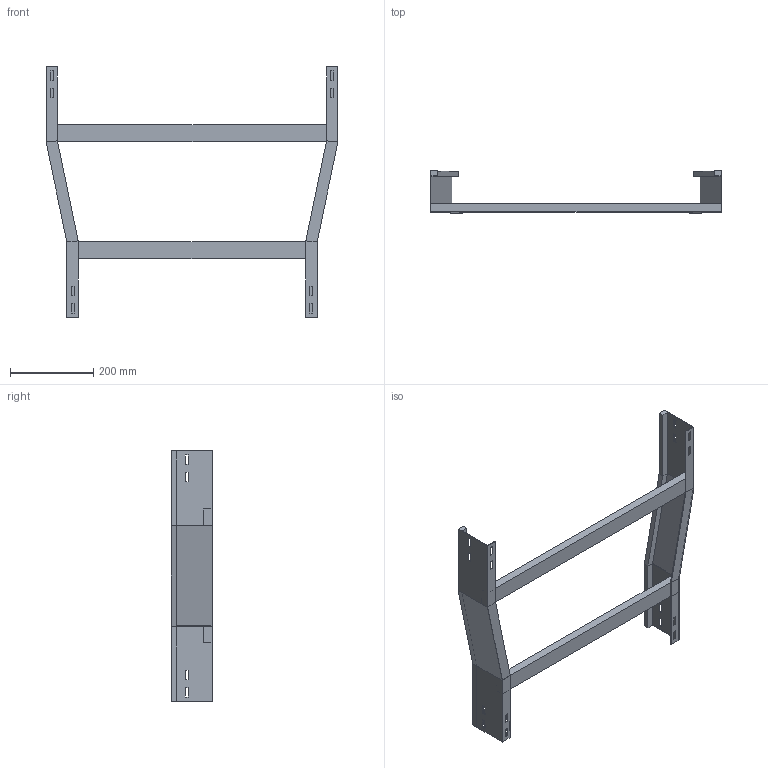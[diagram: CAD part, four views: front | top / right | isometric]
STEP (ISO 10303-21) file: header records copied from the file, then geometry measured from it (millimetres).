
FILE_DESCRIPTION (( 'STEP AP214' ), '1' );
FILE_NAME ('B2X20B6D700XX.step', '2025-09-02T17:15:07', ( '' ), ( '' ), 'SwSTEP 2.0', 'SolidWorks 2023', '' );
FILE_SCHEMA (( 'AUTOMOTIVE_DESIGN' ));
Length unit declared in the file: millimetre
Products named in the file (4): SPONDA RID. CENTRALE 700-600_H100; TRAVERSINO_600; B2X20B6D700XX; TRAVERSINO_700
Assembly tree (3 placements, depth 2):
  B2X20B6D700XX
    SPONDA RID. CENTRALE 700-600_H100
    TRAVERSINO_600
    TRAVERSINO_700
Bounding box: 700 x 100 x 600 mm (x, y, z)
Volume: 1576547.3 mm3; surface area: 504415.5 mm2
Topology: 4 solids, 4 shells, 128 faces, 328 edges, 208 vertices
Faces by surface type: plane 128
Entity records: 3950 total; most frequent: CARTESIAN_POINT 670, ORIENTED_EDGE 656, DIRECTION 596, EDGE_CURVE 328, VECTOR 328, LINE 328, VERTEX_POINT 208, EDGE_LOOP 160
